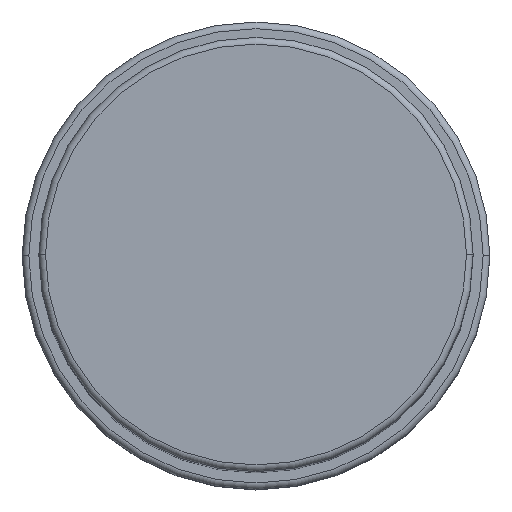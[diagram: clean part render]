
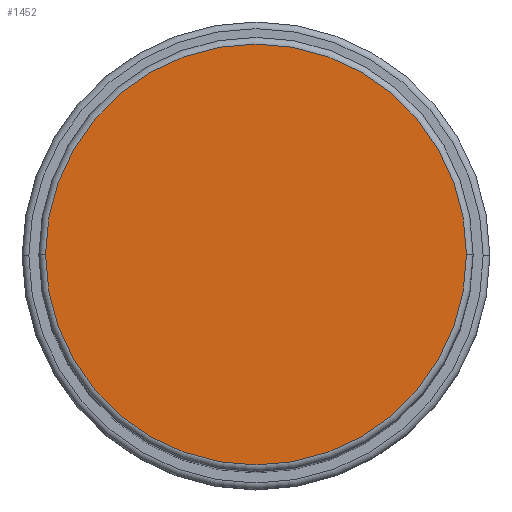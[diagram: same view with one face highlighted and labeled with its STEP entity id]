
A CAD part, top view. The second image highlights one B-rep face of the part: STEP entity #1452.
In plain terms, the highlighted planar face has unit normal (0, 0, 1).
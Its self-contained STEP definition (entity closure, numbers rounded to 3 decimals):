
#2 = ORIENTED_EDGE ( 'NONE', *, *, #834, .T. ) ;
#40 = VERTEX_POINT ( 'NONE', #714 ) ;
#65 = CIRCLE ( 'NONE', #561, 31.5 ) ;
#112 = CARTESIAN_POINT ( 'NONE',  ( 0., 0., 128. ) ) ;
#125 = EDGE_LOOP ( 'NONE', ( #1500, #2 ) ) ;
#130 = DIRECTION ( 'NONE',  ( 0., 0., 1. ) ) ;
#231 = DIRECTION ( 'NONE',  ( 0., 0., 1. ) ) ;
#269 = DIRECTION ( 'NONE',  ( 1., 0., 0. ) ) ;
#281 = FACE_OUTER_BOUND ( 'NONE', #125, .T. ) ;
#440 = EDGE_CURVE ( 'NONE', #40, #1399, #1440, .T. ) ;
#561 = AXIS2_PLACEMENT_3D ( 'NONE', #112, #231, #1472 ) ;
#714 = CARTESIAN_POINT ( 'NONE',  ( 31.5, 0., 128. ) ) ;
#724 = AXIS2_PLACEMENT_3D ( 'NONE', #1508, #130, #269 ) ;
#739 = PLANE ( 'NONE',  #724 ) ;
#786 = CARTESIAN_POINT ( 'NONE',  ( 0., 0., 128. ) ) ;
#834 = EDGE_CURVE ( 'NONE', #1399, #40, #65, .T. ) ;
#1046 = DIRECTION ( 'NONE',  ( 0., 0., 1. ) ) ;
#1185 = DIRECTION ( 'NONE',  ( 1., 0., 0. ) ) ;
#1399 = VERTEX_POINT ( 'NONE', #1538 ) ;
#1440 = CIRCLE ( 'NONE', #1482, 31.5 ) ;
#1452 = ADVANCED_FACE ( 'NONE', ( #281 ), #739, .T. ) ;
#1472 = DIRECTION ( 'NONE',  ( 1., 0., 0. ) ) ;
#1482 = AXIS2_PLACEMENT_3D ( 'NONE', #786, #1046, #1185 ) ;
#1500 = ORIENTED_EDGE ( 'NONE', *, *, #440, .T. ) ;
#1508 = CARTESIAN_POINT ( 'NONE',  ( 0., 0., 128. ) ) ;
#1538 = CARTESIAN_POINT ( 'NONE',  ( -31.5, 0., 128. ) ) ;
